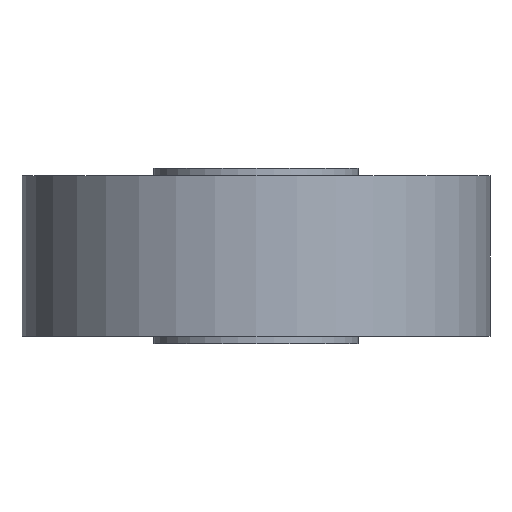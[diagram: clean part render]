
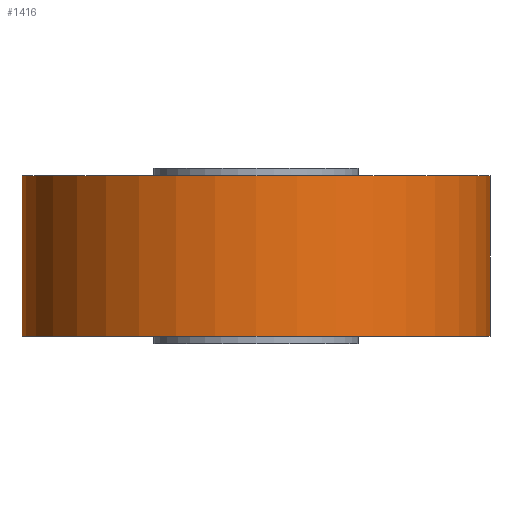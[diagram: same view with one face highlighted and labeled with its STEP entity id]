
A CAD part, front view. The second image highlights one B-rep face of the part: STEP entity #1416.
In plain terms, the highlighted cylindrical face has radius 16 mm (diameter 32 mm), a full revolution.
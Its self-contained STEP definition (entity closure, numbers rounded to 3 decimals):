
#53=B_SPLINE_CURVE_WITH_KNOTS('',3,(#2292,#2293,#2294,#2295,#2296,#2297,
#2298,#2299,#2300,#2301,#2302,#2303,#2304,#2305,#2306,#2307,#2308,#2309,
#2310),.UNSPECIFIED.,.F.,.F.,(4,2,2,2,3,2,2,2,4),(2.277,2.466,
2.656,2.846,3.036,3.225,3.415,
3.605,3.794),.UNSPECIFIED.);
#54=B_SPLINE_CURVE_WITH_KNOTS('',3,(#2311,#2312,#2313,#2314,#2315,#2316,
#2317,#2318,#2319,#2320,#2321,#2322,#2323,#2324,#2325,#2326,#2327,#2328),
 .UNSPECIFIED.,.F.,.F.,(4,2,2,2,2,2,2,2,4),(0.759,0.949,
1.138,1.328,1.518,1.708,1.897,
2.087,2.277),.UNSPECIFIED.);
#57=FACE_BOUND('',#207,.T.);
#117=FACE_OUTER_BOUND('',#206,.T.);
#206=EDGE_LOOP('',(#966,#967,#968,#969,#970,#971));
#207=EDGE_LOOP('',(#972,#973));
#310=LINE('',#2286,#378);
#378=VECTOR('',#1777,16.);
#452=CIRCLE('',#1530,16.);
#453=CIRCLE('',#1531,16.);
#454=CIRCLE('',#1533,16.);
#455=CIRCLE('',#1534,16.);
#586=VERTEX_POINT('',#2280);
#587=VERTEX_POINT('',#2281);
#588=VERTEX_POINT('',#2285);
#589=VERTEX_POINT('',#2287);
#590=VERTEX_POINT('',#2290);
#591=VERTEX_POINT('',#2291);
#741=EDGE_CURVE('',#586,#587,#452,.T.);
#742=EDGE_CURVE('',#587,#586,#453,.T.);
#743=EDGE_CURVE('',#587,#588,#310,.T.);
#744=EDGE_CURVE('',#588,#589,#454,.T.);
#745=EDGE_CURVE('',#589,#588,#455,.T.);
#746=EDGE_CURVE('',#590,#591,#53,.T.);
#747=EDGE_CURVE('',#591,#590,#54,.T.);
#966=ORIENTED_EDGE('',*,*,#741,.F.);
#967=ORIENTED_EDGE('',*,*,#742,.F.);
#968=ORIENTED_EDGE('',*,*,#743,.T.);
#969=ORIENTED_EDGE('',*,*,#744,.T.);
#970=ORIENTED_EDGE('',*,*,#745,.T.);
#971=ORIENTED_EDGE('',*,*,#743,.F.);
#972=ORIENTED_EDGE('',*,*,#746,.T.);
#973=ORIENTED_EDGE('',*,*,#747,.T.);
#1381=CYLINDRICAL_SURFACE('',#1532,16.);
#1416=ADVANCED_FACE('',(#117,#57),#1381,.T.);
#1530=AXIS2_PLACEMENT_3D('',#2282,#1771,#1772);
#1531=AXIS2_PLACEMENT_3D('',#2283,#1773,#1774);
#1532=AXIS2_PLACEMENT_3D('',#2284,#1775,#1776);
#1533=AXIS2_PLACEMENT_3D('',#2288,#1778,#1779);
#1534=AXIS2_PLACEMENT_3D('',#2289,#1780,#1781);
#1771=DIRECTION('center_axis',(0.,0.,1.));
#1772=DIRECTION('ref_axis',(1.,0.,0.));
#1773=DIRECTION('center_axis',(0.,0.,1.));
#1774=DIRECTION('ref_axis',(1.,0.,0.));
#1775=DIRECTION('center_axis',(0.,0.,1.));
#1776=DIRECTION('ref_axis',(1.,0.,0.));
#1777=DIRECTION('',(0.,0.,-1.));
#1778=DIRECTION('center_axis',(0.,0.,1.));
#1779=DIRECTION('ref_axis',(1.,0.,0.));
#1780=DIRECTION('center_axis',(0.,0.,1.));
#1781=DIRECTION('ref_axis',(1.,0.,0.));
#2280=CARTESIAN_POINT('',(16.,0.,11.5));
#2281=CARTESIAN_POINT('',(-16.,0.,11.5));
#2282=CARTESIAN_POINT('Origin',(0.,0.,11.5));
#2283=CARTESIAN_POINT('Origin',(0.,0.,11.5));
#2284=CARTESIAN_POINT('Origin',(0.,0.,6.));
#2285=CARTESIAN_POINT('',(-16.,0.,0.5));
#2286=CARTESIAN_POINT('',(-16.,0.,6.));
#2287=CARTESIAN_POINT('',(16.,0.,0.5));
#2288=CARTESIAN_POINT('Origin',(0.,0.,0.5));
#2289=CARTESIAN_POINT('Origin',(0.,0.,0.5));
#2290=CARTESIAN_POINT('',(0.,16.,1.));
#2291=CARTESIAN_POINT('',(0.,16.,11.));
#2292=CARTESIAN_POINT('Ctrl Pts',(0.,16.,1.));
#2293=CARTESIAN_POINT('Ctrl Pts',(0.632,16.,1.));
#2294=CARTESIAN_POINT('Ctrl Pts',(1.304,15.959,1.127));
#2295=CARTESIAN_POINT('Ctrl Pts',(2.535,15.81,1.639));
#2296=CARTESIAN_POINT('Ctrl Pts',(3.094,15.705,2.023));
#2297=CARTESIAN_POINT('Ctrl Pts',(3.977,15.504,2.906));
#2298=CARTESIAN_POINT('Ctrl Pts',(4.361,15.396,3.465));
#2299=CARTESIAN_POINT('Ctrl Pts',(4.873,15.242,4.696));
#2300=CARTESIAN_POINT('Ctrl Pts',(5.,15.199,5.367));
#2301=CARTESIAN_POINT('Ctrl Pts',(5.,15.199,6.));
#2302=CARTESIAN_POINT('Ctrl Pts',(5.,15.199,6.633));
#2303=CARTESIAN_POINT('Ctrl Pts',(4.873,15.242,7.304));
#2304=CARTESIAN_POINT('Ctrl Pts',(4.361,15.396,8.535));
#2305=CARTESIAN_POINT('Ctrl Pts',(3.977,15.504,9.094));
#2306=CARTESIAN_POINT('Ctrl Pts',(3.094,15.705,9.977));
#2307=CARTESIAN_POINT('Ctrl Pts',(2.535,15.81,10.361));
#2308=CARTESIAN_POINT('Ctrl Pts',(1.304,15.959,10.873));
#2309=CARTESIAN_POINT('Ctrl Pts',(0.632,16.,11.));
#2310=CARTESIAN_POINT('Ctrl Pts',(0.,16.,11.));
#2311=CARTESIAN_POINT('Ctrl Pts',(0.,16.,11.));
#2312=CARTESIAN_POINT('Ctrl Pts',(-0.632,16.,11.));
#2313=CARTESIAN_POINT('Ctrl Pts',(-1.304,15.959,10.873));
#2314=CARTESIAN_POINT('Ctrl Pts',(-2.535,15.81,10.361));
#2315=CARTESIAN_POINT('Ctrl Pts',(-3.094,15.705,9.977));
#2316=CARTESIAN_POINT('Ctrl Pts',(-3.977,15.504,9.094));
#2317=CARTESIAN_POINT('Ctrl Pts',(-4.361,15.396,8.535));
#2318=CARTESIAN_POINT('Ctrl Pts',(-4.873,15.242,7.304));
#2319=CARTESIAN_POINT('Ctrl Pts',(-5.,15.199,6.633));
#2320=CARTESIAN_POINT('Ctrl Pts',(-5.,15.199,5.367));
#2321=CARTESIAN_POINT('Ctrl Pts',(-4.873,15.242,4.696));
#2322=CARTESIAN_POINT('Ctrl Pts',(-4.361,15.396,3.465));
#2323=CARTESIAN_POINT('Ctrl Pts',(-3.977,15.504,2.906));
#2324=CARTESIAN_POINT('Ctrl Pts',(-3.094,15.705,2.023));
#2325=CARTESIAN_POINT('Ctrl Pts',(-2.535,15.81,1.639));
#2326=CARTESIAN_POINT('Ctrl Pts',(-1.304,15.959,1.127));
#2327=CARTESIAN_POINT('Ctrl Pts',(-0.632,16.,1.));
#2328=CARTESIAN_POINT('Ctrl Pts',(0.,16.,1.));
